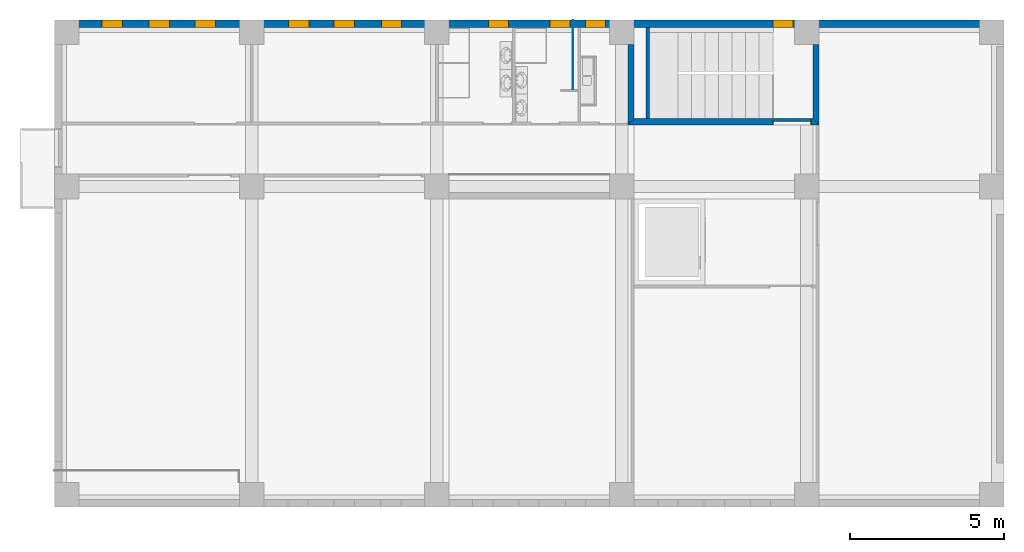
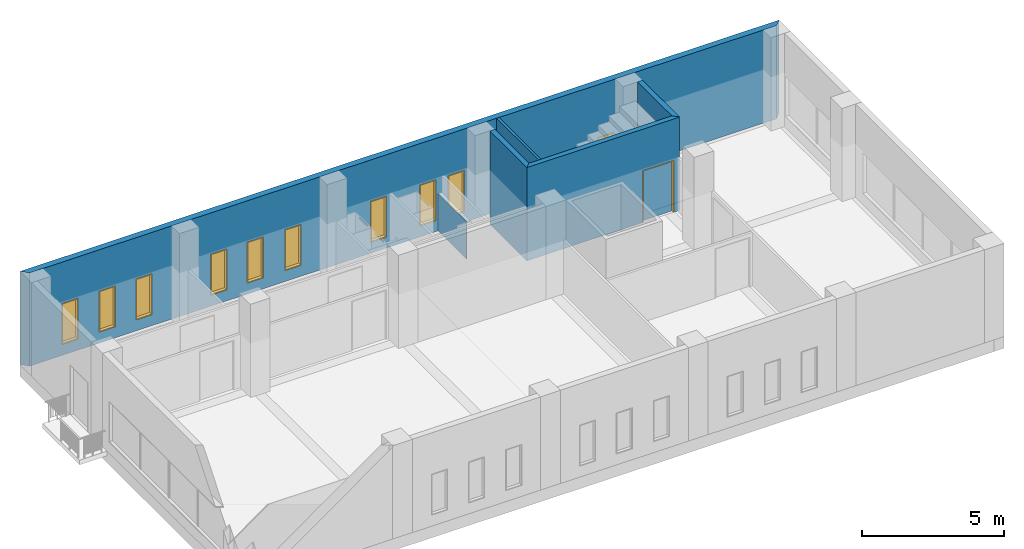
# One storey, part 4 of 14: 10 windows, 6 walls, 1 door, 11 openings.
"""IFC2X3 building model written with IfcOpenShell, lengths in millimetres."""

from ifc_helpers import new_model, entity, si_unit, converted_unit, direction, frame, origin_with_axes, origin_2d_with_axis, place, context, project, spatial, polyline, rectangle, outline, extrude, open_shell, surface_model, source, transform, mapped, material, layer, layer_set, layer_usage, type_object, element, fill, save


model = new_model("IFC2X3")

# Units and contexts
model_context = context("Model", 3, precision=1e-05, world=origin_with_axes(), true_north=direction((0.0, 1.0)))
ifc_project = project(units=[si_unit("LENGTHUNIT", "METRE", prefix="MILLI"), si_unit("AREAUNIT", "SQUARE_METRE"), si_unit("VOLUMEUNIT", "CUBIC_METRE"), converted_unit("PLANEANGLEUNIT", "DEGREE", entity("IfcPlaneAngleMeasure", 0.017453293), si_unit("PLANEANGLEUNIT", "RADIAN"), dimensions=[0, 0, 0, 0, 0, 0, 0]), si_unit("SOLIDANGLEUNIT", "STERADIAN"), si_unit("MASSUNIT", "GRAM"), si_unit("TIMEUNIT", "SECOND"), si_unit("THERMODYNAMICTEMPERATUREUNIT", "DEGREE_CELSIUS"), si_unit("LUMINOUSINTENSITYUNIT", "LUMEN")], contexts=[model_context])

# Site, building, storey
site_placement = place(None, origin_with_axes())
site = spatial("IfcSite", under=ifc_project, at=site_placement, Name="\x83T\x83C\x83g", CompositionType="ELEMENT")
building_placement = place(site_placement, origin_with_axes())
building = spatial("IfcBuilding", under=site, at=building_placement, Name="Daitec-Sample 201208", CompositionType="ELEMENT")
storey_placement = place(building_placement, frame((0.0, 0.0, 8000.0), z_axis=(0.0, 0.0, 1.0), x_axis=(1.0, 0.0, 0.0)))
storey = spatial("IfcBuildingStorey", under=building, at=storey_placement, Name="3F", CompositionType="ELEMENT", Elevation=8000.0)

# Wall, openings, windows
ifc_material_1 = material(Name="\x83R\x83\x93\x83N\x83\x8a\x81[\x83g-\x8d\\\x91¢2")
ifc_layer_1 = layer(ifc_material_1, 250.0, ventilated="UNKNOWN")
ifc_layer_set_1 = layer_set([ifc_layer_1], Name="\x83R\x83\x93\x83N\x83\x8a\x81[\x83g-\x8d\\\x91¢2 250")
ifc_layer_usage_1 = layer_usage(ifc_layer_set_1, "AXIS2", "POSITIVE", 0.0)
wall_type_1 = type_object("IfcWallType", Name="\x83R\x83\x93\x83N\x83\x8a\x81[\x83g-\x8d\\\x91¢2 250", PredefinedType="NOTDEFINED")
wall_1_placement = place(storey_placement, frame((36900.0, 23800.0, 0.0), z_axis=(0.0, 0.0, 1.0), x_axis=(-1.0, 0.0, 0.0)))
wall_1 = element("IfcWallStandardCase", 1, at=wall_1_placement, inside=storey, type_object=wall_type_1, material=ifc_layer_usage_1, Name="W8", context=model_context, shape_type="SweptSolid", body=[
    extrude(outline(polyline([(0.0, 0.0), (30800.0, 0.0), (30550.0, 250.0), (250.0, 250.0), (0.0, 0.0)])), origin_with_axes(), (0.0, 0.0, 1.0), 4000.0),
])
opening_1_placement = place(wall_1_placement, frame((16396.197, 0.0, 500.0), z_axis=(0.0, 0.0, 1.0), x_axis=(1.0, 0.0, 0.0)))
opening_1 = element("IfcOpeningElement", 2, at=opening_1_placement, cuts=wall_1, context=model_context, shape_type="SweptSolid", body=[
    extrude(rectangle(XDim=600.0, YDim=1700.0, at=origin_2d_with_axis()), frame((0.0, -1.0, 850.0), z_axis=(0.0, 1.0, 0.0), x_axis=(1.0, 0.0, 0.0)), (0.0, 0.0, 1.0), 252.0),
    extrude(rectangle(XDim=600.0, YDim=1700.0, at=origin_2d_with_axis()), frame((0.0, 1.0, 850.0), z_axis=(0.0, -1.0, 0.0), x_axis=(1.0, 0.0, 0.0)), (0.0, 0.0, 1.0), 252.0),
    extrude(rectangle(XDim=660.0, YDim=1760.0, at=origin_2d_with_axis()), frame((0.0, -126.0, 850.0), z_axis=(0.0, 1.0, 0.0), x_axis=(1.0, 0.0, 0.0)), (0.0, 0.0, 1.0), 252.0),
])
opening_2_placement = place(wall_1_placement, frame((14398.791, 0.0, 500.0), z_axis=(0.0, 0.0, 1.0), x_axis=(1.0, 0.0, 0.0)))
opening_2 = element("IfcOpeningElement", 3, at=opening_2_placement, cuts=wall_1, context=model_context, shape_type="SweptSolid", body=[
    extrude(rectangle(XDim=600.0, YDim=1700.0, at=origin_2d_with_axis()), frame((0.0, -1.0, 850.0), z_axis=(0.0, 1.0, 0.0), x_axis=(1.0, 0.0, 0.0)), (0.0, 0.0, 1.0), 252.0),
    extrude(rectangle(XDim=600.0, YDim=1700.0, at=origin_2d_with_axis()), frame((0.0, 1.0, 850.0), z_axis=(0.0, -1.0, 0.0), x_axis=(1.0, 0.0, 0.0)), (0.0, 0.0, 1.0), 252.0),
    extrude(rectangle(XDim=660.0, YDim=1760.0, at=origin_2d_with_axis()), frame((0.0, -126.0, 850.0), z_axis=(0.0, 1.0, 0.0), x_axis=(1.0, 0.0, 0.0)), (0.0, 0.0, 1.0), 252.0),
])
opening_3_placement = place(wall_1_placement, frame((28920.264, 0.0, 500.0), z_axis=(0.0, 0.0, 1.0), x_axis=(1.0, 0.0, 0.0)))
opening_3 = element("IfcOpeningElement", 4, at=opening_3_placement, cuts=wall_1, context=model_context, shape_type="SweptSolid", body=[
    extrude(rectangle(XDim=600.0, YDim=1700.0, at=origin_2d_with_axis()), frame((0.0, 59.0, 850.0), z_axis=(0.0, 1.0, 0.0), x_axis=(1.0, 0.0, 0.0)), (0.0, 0.0, 1.0), 252.0),
    extrude(rectangle(XDim=600.0, YDim=1700.0, at=origin_2d_with_axis()), frame((0.0, 61.0, 850.0), z_axis=(0.0, -1.0, 0.0), x_axis=(1.0, 0.0, 0.0)), (0.0, 0.0, 1.0), 252.0),
    extrude(rectangle(XDim=660.0, YDim=1760.0, at=origin_2d_with_axis()), frame((0.0, -66.0, 850.0), z_axis=(0.0, 1.0, 0.0), x_axis=(1.0, 0.0, 0.0)), (0.0, 0.0, 1.0), 252.0),
])
opening_4_placement = place(wall_1_placement, frame((27403.544, 0.0, 500.0), z_axis=(0.0, 0.0, 1.0), x_axis=(1.0, 0.0, 0.0)))
opening_4 = element("IfcOpeningElement", 5, at=opening_4_placement, cuts=wall_1, context=model_context, shape_type="SweptSolid", body=[
    extrude(rectangle(XDim=600.0, YDim=1700.0, at=origin_2d_with_axis()), frame((0.0, 59.0, 850.0), z_axis=(0.0, 1.0, 0.0), x_axis=(1.0, 0.0, 0.0)), (0.0, 0.0, 1.0), 252.0),
    extrude(rectangle(XDim=600.0, YDim=1700.0, at=origin_2d_with_axis()), frame((0.0, 61.0, 850.0), z_axis=(0.0, -1.0, 0.0), x_axis=(1.0, 0.0, 0.0)), (0.0, 0.0, 1.0), 252.0),
    extrude(rectangle(XDim=660.0, YDim=1760.0, at=origin_2d_with_axis()), frame((0.0, -66.0, 850.0), z_axis=(0.0, 1.0, 0.0), x_axis=(1.0, 0.0, 0.0)), (0.0, 0.0, 1.0), 252.0),
])
opening_5_placement = place(wall_1_placement, frame((25908.913, 0.0, 500.0), z_axis=(0.0, 0.0, 1.0), x_axis=(1.0, 0.0, 0.0)))
opening_5 = element("IfcOpeningElement", 6, at=opening_5_placement, cuts=wall_1, context=model_context, shape_type="SweptSolid", body=[
    extrude(rectangle(XDim=600.0, YDim=1700.0, at=origin_2d_with_axis()), frame((0.0, 191.0, 850.0), z_axis=(0.0, -1.0, 0.0), x_axis=(1.0, 0.0, 0.0)), (0.0, 0.0, 1.0), 252.0),
    extrude(rectangle(XDim=600.0, YDim=1700.0, at=origin_2d_with_axis()), frame((0.0, 189.0, 850.0), z_axis=(0.0, 1.0, 0.0), x_axis=(1.0, 0.0, 0.0)), (0.0, 0.0, 1.0), 252.0),
    extrude(rectangle(XDim=660.0, YDim=1760.0, at=origin_2d_with_axis()), frame((0.0, 316.0, 850.0), z_axis=(0.0, -1.0, 0.0), x_axis=(1.0, 0.0, 0.0)), (0.0, 0.0, 1.0), 252.0),
])
opening_6_placement = place(wall_1_placement, frame((21400.0, 0.0, 500.0), z_axis=(0.0, 0.0, 1.0), x_axis=(1.0, 0.0, 0.0)))
opening_6 = element("IfcOpeningElement", 7, at=opening_6_placement, cuts=wall_1, context=model_context, shape_type="SweptSolid", body=[
    extrude(rectangle(XDim=600.0, YDim=1700.0, at=origin_2d_with_axis()), frame((0.0, 191.0, 850.0), z_axis=(0.0, -1.0, 0.0), x_axis=(1.0, 0.0, 0.0)), (0.0, 0.0, 1.0), 252.0),
    extrude(rectangle(XDim=600.0, YDim=1700.0, at=origin_2d_with_axis()), frame((0.0, 189.0, 850.0), z_axis=(0.0, 1.0, 0.0), x_axis=(1.0, 0.0, 0.0)), (0.0, 0.0, 1.0), 252.0),
    extrude(rectangle(XDim=660.0, YDim=1760.0, at=origin_2d_with_axis()), frame((0.0, 316.0, 850.0), z_axis=(0.0, -1.0, 0.0), x_axis=(1.0, 0.0, 0.0)), (0.0, 0.0, 1.0), 252.0),
])
opening_7_placement = place(wall_1_placement, frame((22875.473, 0.0, 500.0), z_axis=(0.0, 0.0, 1.0), x_axis=(1.0, 0.0, 0.0)))
opening_7 = element("IfcOpeningElement", 8, at=opening_7_placement, cuts=wall_1, context=model_context, shape_type="SweptSolid", body=[
    extrude(rectangle(XDim=600.0, YDim=1700.0, at=origin_2d_with_axis()), frame((0.0, 191.0, 850.0), z_axis=(0.0, -1.0, 0.0), x_axis=(1.0, 0.0, 0.0)), (0.0, 0.0, 1.0), 252.0),
    extrude(rectangle(XDim=600.0, YDim=1700.0, at=origin_2d_with_axis()), frame((0.0, 189.0, 850.0), z_axis=(0.0, 1.0, 0.0), x_axis=(1.0, 0.0, 0.0)), (0.0, 0.0, 1.0), 252.0),
    extrude(rectangle(XDim=660.0, YDim=1760.0, at=origin_2d_with_axis()), frame((0.0, 316.0, 850.0), z_axis=(0.0, -1.0, 0.0), x_axis=(1.0, 0.0, 0.0)), (0.0, 0.0, 1.0), 252.0),
])
opening_8_placement = place(wall_1_placement, frame((19864.122, 0.0, 500.0), z_axis=(0.0, 0.0, 1.0), x_axis=(1.0, 0.0, 0.0)))
opening_8 = element("IfcOpeningElement", 9, at=opening_8_placement, cuts=wall_1, context=model_context, shape_type="SweptSolid", body=[
    extrude(rectangle(XDim=600.0, YDim=1700.0, at=origin_2d_with_axis()), frame((0.0, 191.0, 850.0), z_axis=(0.0, -1.0, 0.0), x_axis=(1.0, 0.0, 0.0)), (0.0, 0.0, 1.0), 252.0),
    extrude(rectangle(XDim=600.0, YDim=1700.0, at=origin_2d_with_axis()), frame((0.0, 189.0, 850.0), z_axis=(0.0, 1.0, 0.0), x_axis=(1.0, 0.0, 0.0)), (0.0, 0.0, 1.0), 252.0),
    extrude(rectangle(XDim=660.0, YDim=1760.0, at=origin_2d_with_axis()), frame((0.0, 316.0, 850.0), z_axis=(0.0, -1.0, 0.0), x_axis=(1.0, 0.0, 0.0)), (0.0, 0.0, 1.0), 252.0),
])
opening_9_placement = place(wall_1_placement, frame((13248.695, 0.0, 500.0), z_axis=(0.0, 0.0, 1.0), x_axis=(1.0, 0.0, 0.0)))
opening_9 = element("IfcOpeningElement", 10, at=opening_9_placement, cuts=wall_1, context=model_context, shape_type="SweptSolid", body=[
    extrude(rectangle(XDim=600.0, YDim=1700.0, at=origin_2d_with_axis()), frame((0.0, 191.0, 850.0), z_axis=(0.0, -1.0, 0.0), x_axis=(1.0, 0.0, 0.0)), (0.0, 0.0, 1.0), 252.0),
    extrude(rectangle(XDim=600.0, YDim=1700.0, at=origin_2d_with_axis()), frame((0.0, 189.0, 850.0), z_axis=(0.0, 1.0, 0.0), x_axis=(1.0, 0.0, 0.0)), (0.0, 0.0, 1.0), 252.0),
    extrude(rectangle(XDim=660.0, YDim=1760.0, at=origin_2d_with_axis()), frame((0.0, 316.0, 850.0), z_axis=(0.0, -1.0, 0.0), x_axis=(1.0, 0.0, 0.0)), (0.0, 0.0, 1.0), 252.0),
])
opening_10_placement = place(wall_1_placement, frame((7170.2235, 0.0, 500.0), z_axis=(0.0, 0.0, 1.0), x_axis=(1.0, 0.0, 0.0)))
opening_10 = element("IfcOpeningElement", 11, at=opening_10_placement, cuts=wall_1, context=model_context, shape_type="SweptSolid", body=[
    extrude(rectangle(XDim=600.0, YDim=1200.0, at=origin_2d_with_axis()), frame((0.0, 191.0, 600.0), z_axis=(0.0, -1.0, 0.0), x_axis=(1.0, 0.0, 0.0)), (0.0, 0.0, 1.0), 252.0),
    extrude(rectangle(XDim=600.0, YDim=1200.0, at=origin_2d_with_axis()), frame((0.0, 189.0, 600.0), z_axis=(0.0, 1.0, 0.0), x_axis=(1.0, 0.0, 0.0)), (0.0, 0.0, 1.0), 252.0),
    extrude(rectangle(XDim=660.0, YDim=1260.0, at=origin_2d_with_axis()), frame((0.0, 316.0, 600.0), z_axis=(0.0, -1.0, 0.0), x_axis=(1.0, 0.0, 0.0)), (0.0, 0.0, 1.0), 252.0),
])
ifc_material_2 = material(Name="\x94w\x8ci")
window_style = type_object("IfcWindowStyle", ConstructionType="NOTDEFINED", OperationType="NOTDEFINED", ParameterTakesPrecedence=False, Sizeable=False)
shared_shape_1 = source(origin_with_axes(), model_context, "Body", "SurfaceModel", [
    surface_model("IfcShellBasedSurfaceModel", [(-300.0, -65.0, 0.0), (-300.0, -65.0, 1700.0), (300.0, -65.0, 1700.0), (300.0, -65.0, 0.0), (-260.0, -65.0, 40.0), (260.0, -65.0, 40.0), (260.0, -65.0, 1660.0), (-260.0, -65.0, 1660.0)], [open_shell([[[0, 1, 2, 3], [4, 5, 6, 7]]])]),
    surface_model("IfcShellBasedSurfaceModel", [(-260.0, -65.0, 40.0), (-260.0, -65.0, 1660.0), (260.0, -65.0, 1660.0), (260.0, -65.0, 40.0)], [open_shell([[[0, 1, 2, 3]]])]),
    surface_model("IfcShellBasedSurfaceModel", [(-330.0, 60.0, -30.0), (-330.0, 60.0, 1730.0), (330.0, 60.0, 1730.0), (330.0, 60.0, -30.0), (-300.0, 60.0, 0.0), (300.0, 60.0, 0.0), (300.0, 60.0, 1700.0), (-300.0, 60.0, 1700.0)], [open_shell([[[0, 1, 2, 3], [4, 5, 6, 7]]])]),
    surface_model("IfcShellBasedSurfaceModel", [(-330.0, -190.0, -30.0), (-330.0, -190.0, 1730.0), (330.0, -190.0, 1730.0), (330.0, -190.0, -30.0), (-300.0, -190.0, 0.0), (300.0, -190.0, 0.0), (300.0, -190.0, 1700.0), (-300.0, -190.0, 1700.0)], [open_shell([[[0, 1, 2, 3], [4, 5, 6, 7]]])]),
    surface_model("IfcShellBasedSurfaceModel", [(-330.0, 60.0, -30.0), (330.0, 60.0, -30.0), (330.0, -190.0, -30.0), (-330.0, -190.0, -30.0), (330.0, 60.0, 1730.0), (330.0, -190.0, 1730.0), (-330.0, 60.0, 1730.0), (-330.0, -190.0, 1730.0)], [open_shell([[[0, 1, 2, 3]], [[1, 4, 5, 2]], [[6, 0, 3, 7]], [[4, 6, 7, 5]]])]),
    surface_model("IfcShellBasedSurfaceModel", [(-300.0, 60.0, 0.0), (300.0, 60.0, 0.0), (300.0, -190.0, 0.0), (-300.0, -190.0, 0.0), (300.0, 60.0, 1700.0), (300.0, -190.0, 1700.0), (-300.0, 60.0, 1700.0), (-300.0, -190.0, 1700.0)], [open_shell([[[0, 1, 2, 3]], [[1, 4, 5, 2]], [[6, 0, 3, 7]], [[4, 6, 7, 5]]])]),
])
window_1_placement = place(opening_3_placement, frame((-300.0, 0.0, 0.0), z_axis=(0.0, 0.0, 1.0), x_axis=(1.0, 0.0, 0.0)))
window_1 = element("IfcWindow", 12, at=window_1_placement, inside=storey, type_object=window_style, material=ifc_material_2, Name="AW8", OverallHeight=1700.0, OverallWidth=600.0, context=model_context, shape_type="MappedRepresentation", body=[
    mapped(shared_shape_1, transform((300.0, 60.0, 0.0), x_axis=(-1.0, 0.0, 0.0), y_axis=(0.0, -1.0, 0.0), z_axis=(0.0, 0.0, 1.0))),
])
fill(opening_3, window_1)
window_2_placement = place(opening_4_placement, frame((-300.0, 0.0, 0.0), z_axis=(0.0, 0.0, 1.0), x_axis=(1.0, 0.0, 0.0)))
window_2 = element("IfcWindow", 13, at=window_2_placement, inside=storey, type_object=window_style, material=ifc_material_2, Name="AW9", OverallHeight=1700.0, OverallWidth=600.0, context=model_context, shape_type="MappedRepresentation", body=[
    mapped(shared_shape_1, transform((300.0, 60.0, 0.0), x_axis=(-1.0, 0.0, 0.0), y_axis=(0.0, -1.0, 0.0), z_axis=(0.0, 0.0, 1.0))),
])
fill(opening_4, window_2)
shared_shape_2 = source(origin_with_axes(), model_context, "Body", "SurfaceModel", [
    surface_model("IfcShellBasedSurfaceModel", [(-300.0, 65.0, 0.0), (-300.0, 65.0, 1700.0), (300.0, 65.0, 1700.0), (300.0, 65.0, 0.0), (-260.0, 65.0, 40.0), (260.0, 65.0, 40.0), (260.0, 65.0, 1660.0), (-260.0, 65.0, 1660.0)], [open_shell([[[0, 1, 2, 3], [4, 5, 6, 7]]])]),
    surface_model("IfcShellBasedSurfaceModel", [(-260.0, 65.0, 40.0), (-260.0, 65.0, 1660.0), (260.0, 65.0, 1660.0), (260.0, 65.0, 40.0)], [open_shell([[[0, 1, 2, 3]]])]),
    surface_model("IfcShellBasedSurfaceModel", [(-330.0, 190.0, -30.0), (-330.0, 190.0, 1730.0), (330.0, 190.0, 1730.0), (330.0, 190.0, -30.0), (-300.0, 190.0, 0.0), (300.0, 190.0, 0.0), (300.0, 190.0, 1700.0), (-300.0, 190.0, 1700.0)], [open_shell([[[0, 1, 2, 3], [4, 5, 6, 7]]])]),
    surface_model("IfcShellBasedSurfaceModel", [(-330.0, -60.0, -30.0), (-330.0, -60.0, 1730.0), (330.0, -60.0, 1730.0), (330.0, -60.0, -30.0), (-300.0, -60.0, 0.0), (300.0, -60.0, 0.0), (300.0, -60.0, 1700.0), (-300.0, -60.0, 1700.0)], [open_shell([[[0, 1, 2, 3], [4, 5, 6, 7]]])]),
    surface_model("IfcShellBasedSurfaceModel", [(-330.0, 190.0, -30.0), (330.0, 190.0, -30.0), (330.0, -60.0, -30.0), (-330.0, -60.0, -30.0), (330.0, 190.0, 1730.0), (330.0, -60.0, 1730.0), (-330.0, 190.0, 1730.0), (-330.0, -60.0, 1730.0)], [open_shell([[[0, 1, 2, 3]], [[1, 4, 5, 2]], [[6, 0, 3, 7]], [[4, 6, 7, 5]]])]),
    surface_model("IfcShellBasedSurfaceModel", [(-300.0, 190.0, 0.0), (300.0, 190.0, 0.0), (300.0, -60.0, 0.0), (-300.0, -60.0, 0.0), (300.0, 190.0, 1700.0), (300.0, -60.0, 1700.0), (-300.0, 190.0, 1700.0), (-300.0, -60.0, 1700.0)], [open_shell([[[0, 1, 2, 3]], [[1, 4, 5, 2]], [[6, 0, 3, 7]], [[4, 6, 7, 5]]])]),
])
window_3_placement = place(opening_5_placement, frame((-300.0, 0.0, 0.0), z_axis=(0.0, 0.0, 1.0), x_axis=(1.0, 0.0, 0.0)))
window_3 = element("IfcWindow", 14, at=window_3_placement, inside=storey, type_object=window_style, material=ifc_material_2, Name="AW0", OverallHeight=1700.0, OverallWidth=600.0, context=model_context, shape_type="MappedRepresentation", body=[
    mapped(shared_shape_2, transform((300.0, 60.0, 0.0))),
])
fill(opening_5, window_3)
window_4_placement = place(opening_6_placement, frame((-300.0, 0.0, 0.0), z_axis=(0.0, 0.0, 1.0), x_axis=(1.0, 0.0, 0.0)))
window_4 = element("IfcWindow", 15, at=window_4_placement, inside=storey, type_object=window_style, material=ifc_material_2, Name="AW1", OverallHeight=1700.0, OverallWidth=600.0, context=model_context, shape_type="MappedRepresentation", body=[
    mapped(shared_shape_2, transform((300.0, 60.0, 0.0))),
])
fill(opening_6, window_4)
window_5_placement = place(opening_7_placement, frame((-300.0, 0.0, 0.0), z_axis=(0.0, 0.0, 1.0), x_axis=(1.0, 0.0, 0.0)))
window_5 = element("IfcWindow", 16, at=window_5_placement, inside=storey, type_object=window_style, material=ifc_material_2, Name="AW2", OverallHeight=1700.0, OverallWidth=600.0, context=model_context, shape_type="MappedRepresentation", body=[
    mapped(shared_shape_2, transform((300.0, 60.0, 0.0))),
])
fill(opening_7, window_5)
window_6_placement = place(opening_8_placement, frame((-300.0, 0.0, 0.0), z_axis=(0.0, 0.0, 1.0), x_axis=(1.0, 0.0, 0.0)))
window_6 = element("IfcWindow", 17, at=window_6_placement, inside=storey, type_object=window_style, material=ifc_material_2, Name="AW3", OverallHeight=1700.0, OverallWidth=600.0, context=model_context, shape_type="MappedRepresentation", body=[
    mapped(shared_shape_2, transform((300.0, 60.0, 0.0))),
])
fill(opening_8, window_6)
window_7_placement = place(opening_9_placement, frame((-300.0, 0.0, 0.0), z_axis=(0.0, 0.0, 1.0), x_axis=(1.0, 0.0, 0.0)))
window_7 = element("IfcWindow", 18, at=window_7_placement, inside=storey, type_object=window_style, material=ifc_material_2, Name="AW4", OverallHeight=1700.0, OverallWidth=600.0, context=model_context, shape_type="MappedRepresentation", body=[
    mapped(shared_shape_2, transform((300.0, 60.0, 0.0))),
])
fill(opening_9, window_7)
shared_shape_3 = source(origin_with_axes(), model_context, "Body", "SurfaceModel", [
    surface_model("IfcShellBasedSurfaceModel", [(-300.0, -125.0, 0.0), (-300.0, -125.0, 1700.0), (300.0, -125.0, 1700.0), (300.0, -125.0, 0.0), (-260.0, -125.0, 40.0), (260.0, -125.0, 40.0), (260.0, -125.0, 1660.0), (-260.0, -125.0, 1660.0)], [open_shell([[[0, 1, 2, 3], [4, 5, 6, 7]]])]),
    surface_model("IfcShellBasedSurfaceModel", [(-260.0, -125.0, 40.0), (-260.0, -125.0, 1660.0), (260.0, -125.0, 1660.0), (260.0, -125.0, 40.0)], [open_shell([[[0, 1, 2, 3]]])]),
    surface_model("IfcShellBasedSurfaceModel", [(-330.0, 0.0, -30.0), (-330.0, 0.0, 1730.0), (330.0, 0.0, 1730.0), (330.0, 0.0, -30.0), (-300.0, 0.0, 0.0), (300.0, 0.0, 0.0), (300.0, 0.0, 1700.0), (-300.0, 0.0, 1700.0)], [open_shell([[[0, 1, 2, 3], [4, 5, 6, 7]]])]),
    surface_model("IfcShellBasedSurfaceModel", [(-330.0, -250.0, -30.0), (-330.0, -250.0, 1730.0), (330.0, -250.0, 1730.0), (330.0, -250.0, -30.0), (-300.0, -250.0, 0.0), (300.0, -250.0, 0.0), (300.0, -250.0, 1700.0), (-300.0, -250.0, 1700.0)], [open_shell([[[0, 1, 2, 3], [4, 5, 6, 7]]])]),
    surface_model("IfcShellBasedSurfaceModel", [(-330.0, 0.0, -30.0), (330.0, 0.0, -30.0), (330.0, -250.0, -30.0), (-330.0, -250.0, -30.0), (330.0, 0.0, 1730.0), (330.0, -250.0, 1730.0), (-330.0, 0.0, 1730.0), (-330.0, -250.0, 1730.0)], [open_shell([[[0, 1, 2, 3]], [[1, 4, 5, 2]], [[6, 0, 3, 7]], [[4, 6, 7, 5]]])]),
    surface_model("IfcShellBasedSurfaceModel", [(-300.0, 0.0, 0.0), (300.0, 0.0, 0.0), (300.0, -250.0, 0.0), (-300.0, -250.0, 0.0), (300.0, 0.0, 1700.0), (300.0, -250.0, 1700.0), (-300.0, 0.0, 1700.0), (-300.0, -250.0, 1700.0)], [open_shell([[[0, 1, 2, 3]], [[1, 4, 5, 2]], [[6, 0, 3, 7]], [[4, 6, 7, 5]]])]),
])
window_8_placement = place(opening_1_placement, frame((-300.0, 0.0, 0.0), z_axis=(0.0, 0.0, 1.0), x_axis=(1.0, 0.0, 0.0)))
window_8 = element("IfcWindow", 19, at=window_8_placement, inside=storey, type_object=window_style, material=ifc_material_2, Name="AW3", OverallHeight=1700.0, OverallWidth=600.0, context=model_context, shape_type="MappedRepresentation", body=[
    mapped(shared_shape_3, transform((300.0, 0.0, 0.0), x_axis=(-1.0, 0.0, 0.0), y_axis=(0.0, -1.0, 0.0), z_axis=(0.0, 0.0, 1.0))),
])
fill(opening_1, window_8)
window_9_placement = place(opening_2_placement, frame((-300.0, 0.0, 0.0), z_axis=(0.0, 0.0, 1.0), x_axis=(1.0, 0.0, 0.0)))
window_9 = element("IfcWindow", 20, at=window_9_placement, inside=storey, type_object=window_style, material=ifc_material_2, Name="AW4", OverallHeight=1700.0, OverallWidth=600.0, context=model_context, shape_type="MappedRepresentation", body=[
    mapped(shared_shape_3, transform((300.0, 0.0, 0.0), x_axis=(-1.0, 0.0, 0.0), y_axis=(0.0, -1.0, 0.0), z_axis=(0.0, 0.0, 1.0))),
])
fill(opening_2, window_9)
shared_shape_4 = source(origin_with_axes(), model_context, "Body", "SurfaceModel", [
    surface_model("IfcShellBasedSurfaceModel", [(-300.0, 65.0, 0.0), (-300.0, 65.0, 1200.0), (300.0, 65.0, 1200.0), (300.0, 65.0, 0.0), (-260.0, 65.0, 40.0), (260.0, 65.0, 40.0), (260.0, 65.0, 1160.0), (-260.0, 65.0, 1160.0)], [open_shell([[[0, 1, 2, 3], [4, 5, 6, 7]]])]),
    surface_model("IfcShellBasedSurfaceModel", [(-260.0, 65.0, 40.0), (-260.0, 65.0, 1160.0), (260.0, 65.0, 1160.0), (260.0, 65.0, 40.0)], [open_shell([[[0, 1, 2, 3]]])]),
    surface_model("IfcShellBasedSurfaceModel", [(-330.0, 190.0, -30.0), (-330.0, 190.0, 1230.0), (330.0, 190.0, 1230.0), (330.0, 190.0, -30.0), (-300.0, 190.0, 0.0), (300.0, 190.0, 0.0), (300.0, 190.0, 1200.0), (-300.0, 190.0, 1200.0)], [open_shell([[[0, 1, 2, 3], [4, 5, 6, 7]]])]),
    surface_model("IfcShellBasedSurfaceModel", [(-330.0, -60.0, -30.0), (-330.0, -60.0, 1230.0), (330.0, -60.0, 1230.0), (330.0, -60.0, -30.0), (-300.0, -60.0, 0.0), (300.0, -60.0, 0.0), (300.0, -60.0, 1200.0), (-300.0, -60.0, 1200.0)], [open_shell([[[0, 1, 2, 3], [4, 5, 6, 7]]])]),
    surface_model("IfcShellBasedSurfaceModel", [(-330.0, 190.0, -30.0), (330.0, 190.0, -30.0), (330.0, -60.0, -30.0), (-330.0, -60.0, -30.0), (330.0, 190.0, 1230.0), (330.0, -60.0, 1230.0), (-330.0, 190.0, 1230.0), (-330.0, -60.0, 1230.0)], [open_shell([[[0, 1, 2, 3]], [[1, 4, 5, 2]], [[6, 0, 3, 7]], [[4, 6, 7, 5]]])]),
    surface_model("IfcShellBasedSurfaceModel", [(-300.0, 190.0, 0.0), (300.0, 190.0, 0.0), (300.0, -60.0, 0.0), (-300.0, -60.0, 0.0), (300.0, 190.0, 1200.0), (300.0, -60.0, 1200.0), (-300.0, 190.0, 1200.0), (-300.0, -60.0, 1200.0)], [open_shell([[[0, 1, 2, 3]], [[1, 4, 5, 2]], [[6, 0, 3, 7]], [[4, 6, 7, 5]]])]),
])
window_10_placement = place(opening_10_placement, frame((-300.0, 0.0, 0.0), z_axis=(0.0, 0.0, 1.0), x_axis=(1.0, 0.0, 0.0)))
window_10 = element("IfcWindow", 21, at=window_10_placement, inside=storey, type_object=window_style, material=ifc_material_2, Name="AW3", OverallHeight=1200.0, OverallWidth=600.0, context=model_context, shape_type="MappedRepresentation", body=[
    mapped(shared_shape_4, transform((300.0, 60.0, 0.0))),
])
fill(opening_10, window_10)

# Wall
ifc_layer_2 = layer(ifc_material_1, 200.0, ventilated="UNKNOWN")
ifc_layer_set_2 = layer_set([ifc_layer_2], Name="\x83R\x83\x93\x83N\x83\x8a\x81[\x83g-\x8d\\\x91¢2 200")
ifc_layer_usage_2 = layer_usage(ifc_layer_set_2, "AXIS2", "NEGATIVE", 0.0)
wall_type_2 = type_object("IfcWallType", Name="\x83R\x83\x93\x83N\x83\x8a\x81[\x83g-\x8d\\\x91¢2 200", PredefinedType="NOTDEFINED")
wall_2_placement = place(storey_placement, frame((30900.0, 23000.0, 0.0), z_axis=(0.0, 0.0, 1.0), x_axis=(0.0, -1.0, 0.0)))
element("IfcWallStandardCase", 22, at=wall_2_placement, inside=storey, type_object=wall_type_2, material=ifc_layer_usage_2, Name="W4", context=model_context, shape_type="SweptSolid", body=[
    extrude(outline(polyline([(0.0, -200.0), (2400.0911, -200.0), (2600.0911, 0.0), (0.0, 0.0), (0.0, -200.0)])), origin_with_axes(), (0.0, 0.0, 1.0), 4000.0),
])

# Wall, opening, door
ifc_layer_usage_3 = layer_usage(ifc_layer_set_2, "AXIS2", "POSITIVE", 0.0)
wall_3_placement = place(storey_placement, frame((24900.0, 20399.909, 0.0), z_axis=(0.0, 0.0, 1.0), x_axis=(1.0, 0.0, 0.0)))
wall_3 = element("IfcWallStandardCase", 23, at=wall_3_placement, inside=storey, type_object=wall_type_2, material=ifc_layer_usage_3, Name="W3", context=model_context, shape_type="SweptSolid", body=[
    extrude(outline(polyline([(-200.0, 0.0), (6000.0, 0.0), (5800.0, 200.0), (0.0, 200.0), (-200.0, 0.0)])), origin_with_axes(), (0.0, 0.0, 1.0), 4000.0),
])
opening_11_placement = place(wall_3_placement, frame((5130.9913, 0.0, 0.0), z_axis=(0.0, 0.0, 1.0), x_axis=(1.0, 0.0, 0.0)))
opening_11 = element("IfcOpeningElement", 24, at=opening_11_placement, cuts=wall_3, context=model_context, shape_type="SweptSolid", body=[
    extrude(rectangle(XDim=1260.0, YDim=2230.0, at=origin_2d_with_axis()), frame((0.0, -101.0, 1115.0), z_axis=(0.0, 1.0, 0.0), x_axis=(1.0, 0.0, 0.0)), (0.0, 0.0, 1.0), 202.0),
])
door_style = type_object("IfcDoorStyle", ConstructionType="NOTDEFINED", OperationType="NOTDEFINED", ParameterTakesPrecedence=False, Sizeable=False)
door_placement = place(opening_11_placement, frame((-600.0, 0.0, 0.0), z_axis=(0.0, 0.0, 1.0), x_axis=(1.0, 0.0, 0.0)))
door = element("IfcDoor", 25, at=door_placement, inside=storey, type_object=door_style, material=ifc_material_2, Name="SD1", OverallHeight=2200.0, OverallWidth=1200.0, context=model_context, shape_type="SurfaceModel", body=[
    surface_model("IfcShellBasedSurfaceModel", [(-30.0, 0.0, 0.0), (0.0, 0.0, 0.0), (0.0, 0.0, 2200.0), (1200.0, 0.0, 2200.0), (1200.0, 0.0, 0.0), (1230.0, 0.0, 0.0), (1230.0, 0.0, 2230.0), (-30.0, 0.0, 2230.0)], [open_shell([[[0, 1, 2, 3, 4, 5, 6, 7]]])]),
    surface_model("IfcShellBasedSurfaceModel", [(-30.0, 200.0, 0.0), (0.0, 200.0, 0.0), (0.0, 200.0, 2200.0), (1200.0, 200.0, 2200.0), (1200.0, 200.0, 0.0), (1230.0, 200.0, 0.0), (1230.0, 200.0, 2230.0), (-30.0, 200.0, 2230.0)], [open_shell([[[0, 1, 2, 3, 4, 5, 6, 7]]])]),
    surface_model("IfcShellBasedSurfaceModel", [(0.0, 0.0, 0.0), (0.0, 200.0, 0.0), (0.0, 200.0, 2200.0), (0.0, 0.0, 2200.0), (-30.0, 0.0, 0.0), (-30.0, 200.0, 0.0), (1200.0, 200.0, 2200.0), (1200.0, 0.0, 2200.0), (-30.0, 0.0, 2230.0), (-30.0, 200.0, 2230.0), (1200.0, 200.0, 0.0), (1200.0, 0.0, 0.0), (1230.0, 0.0, 2230.0), (1230.0, 200.0, 2230.0), (1230.0, 200.0, 0.0), (1230.0, 0.0, 0.0)], [open_shell([[[0, 1, 2, 3]], [[4, 5, 1, 0]], [[3, 2, 6, 7]], [[8, 9, 5, 4]], [[7, 6, 10, 11]], [[12, 13, 9, 8]], [[11, 10, 14, 15]], [[15, 14, 13, 12]]])]),
])
fill(opening_11, door)

# Walls
ifc_layer_usage_4 = layer_usage(ifc_layer_set_2, "AXIS2", "NEGATIVE", 0.0)
wall_4_placement = place(storey_placement, frame((24900.0, 23000.0, 0.0), z_axis=(0.0, 0.0, 1.0), x_axis=(0.0, -1.0, 0.0)))
element("IfcWallStandardCase", 26, at=wall_4_placement, inside=storey, type_object=wall_type_2, material=ifc_layer_usage_4, Name="W2", context=model_context, shape_type="SweptSolid", body=[
    extrude(outline(polyline([(0.0, -200.0), (2600.0911, -200.0), (2400.0911, 0.0), (0.0, 0.0), (0.0, -200.0)])), origin_with_axes(), (0.0, 0.0, 1.0), 4000.0),
])
ifc_layer_3 = layer(ifc_material_1, 100.0, ventilated="UNKNOWN")
ifc_layer_set_3 = layer_set([ifc_layer_3], Name="\x83R\x83\x93\x83N\x83\x8a\x81[\x83g-\x8d\\\x91¢2 100")
ifc_layer_usage_5 = layer_usage(ifc_layer_set_3, "AXIS2", "NEGATIVE", 0.0)
wall_type_3 = type_object("IfcWallType", Name="\x83R\x83\x93\x83N\x83\x8a\x81[\x83g-\x8d\\\x91¢2 100", PredefinedType="NOTDEFINED")
wall_5_placement = place(storey_placement, frame((25393.973, 23800.0, 0.0), z_axis=(0.0, 0.0, 1.0), x_axis=(0.0, -1.0, 0.0)))
element("IfcWallStandardCase", 27, at=wall_5_placement, inside=storey, type_object=wall_type_3, material=ifc_layer_usage_5, Name="W0", context=model_context, shape_type="SweptSolid", body=[
    extrude(outline(polyline([(250.0, -100.0), (3200.0, -100.0), (3200.0, 0.0), (250.0, 0.0), (250.0, -100.0)])), origin_with_axes(), (0.0, 0.0, 1.0), 4000.0),
])
ifc_material_3 = material(Name="\x83v\x83\x89\x83X\x83^\x81[\x83{\x81[\x83h")
ifc_layer_4 = layer(ifc_material_3, 10.0, ventilated="UNKNOWN")
ifc_layer_set_4 = layer_set([ifc_layer_4], Name="\x83v\x83\x89\x83X\x83^\x81[\x83{\x81[\x83h 10")
ifc_layer_usage_6 = layer_usage(ifc_layer_set_4, "AXIS2", "NEGATIVE", 0.0)
wall_type_4 = type_object("IfcWallType", Name="\x83v\x83\x89\x83X\x83^\x81[\x83{\x81[\x83h 10", PredefinedType="NOTDEFINED")
wall_6_placement = place(storey_placement, frame((22929.95, 23800.0, 0.0), z_axis=(0.0, 0.0, 1.0), x_axis=(0.0, -1.0, 0.0)))
element("IfcWallStandardCase", 28, at=wall_6_placement, inside=storey, type_object=wall_type_4, material=ifc_layer_usage_6, Name="W1", context=model_context, shape_type="SweptSolid", body=[
    extrude(outline(polyline([(0.0, -10.0), (2250.0, -10.0), (2250.0, 0.0), (0.0, 0.0), (0.0, -10.0)])), origin_with_axes(), (0.0, 0.0, 1.0), 1600.0),
])

save(model, "model.ifc")
